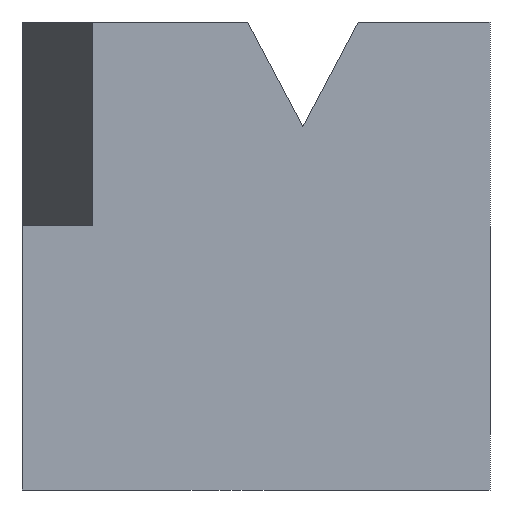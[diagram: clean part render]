
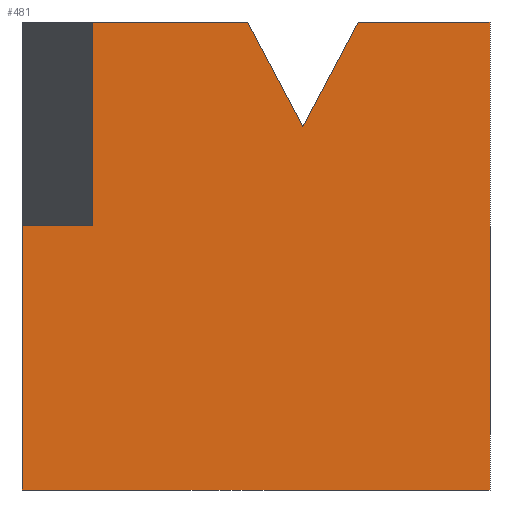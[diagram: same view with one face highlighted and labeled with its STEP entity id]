
A CAD part, front view. The second image highlights one B-rep face of the part: STEP entity #481.
In plain terms, the highlighted planar face has unit normal (0, -1, 0).
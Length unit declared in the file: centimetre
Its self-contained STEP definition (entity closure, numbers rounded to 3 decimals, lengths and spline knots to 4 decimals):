
#7 = CARTESIAN_POINT ( 'NONE',  ( 1000., 0., 0. ) ) ;
#8 = ORIENTED_EDGE ( 'NONE', *, *, #80, .T. ) ;
#23 = VERTEX_POINT ( 'NONE', #35 ) ;
#29 = EDGE_CURVE ( 'NONE', #275, #600, #256, .T. ) ;
#35 = CARTESIAN_POINT ( 'NONE',  ( 150.275, 0., 1000. ) ) ;
#49 = CARTESIAN_POINT ( 'NONE',  ( 600.2374, 0., 775.8648 ) ) ;
#54 = DIRECTION ( 'NONE',  ( 0., 0., -1. ) ) ;
#65 = PLANE ( 'NONE',  #152 ) ;
#77 = VERTEX_POINT ( 'NONE', #632 ) ;
#80 = EDGE_CURVE ( 'NONE', #77, #337, #582, .T. ) ;
#84 = DIRECTION ( 'NONE',  ( 1., 0., 0. ) ) ;
#90 = EDGE_CURVE ( 'NONE', #600, #162, #472, .T. ) ;
#100 = ORIENTED_EDGE ( 'NONE', *, *, #566, .F. ) ;
#101 = DIRECTION ( 'NONE',  ( 1., 0., 0. ) ) ;
#105 = DIRECTION ( 'NONE',  ( 1., 0., 0. ) ) ;
#114 = CARTESIAN_POINT ( 'NONE',  ( 0., 0., 1000. ) ) ;
#115 = VERTEX_POINT ( 'NONE', #220 ) ;
#120 = ORIENTED_EDGE ( 'NONE', *, *, #29, .F. ) ;
#134 = VERTEX_POINT ( 'NONE', #7 ) ;
#141 = DIRECTION ( 'NONE',  ( 0., 1., 0. ) ) ;
#152 = AXIS2_PLACEMENT_3D ( 'NONE', #293, #141, #253 ) ;
#156 = LINE ( 'NONE', #257, #549 ) ;
#162 = VERTEX_POINT ( 'NONE', #541 ) ;
#163 = DIRECTION ( 'NONE',  ( 0., 0., -1. ) ) ;
#167 = CARTESIAN_POINT ( 'NONE',  ( 600.2374, 0., 775.8648 ) ) ;
#174 = LINE ( 'NONE', #375, #218 ) ;
#186 = VECTOR ( 'NONE', #84, 100. ) ;
#198 = CARTESIAN_POINT ( 'NONE',  ( 482.2982, 0., 1000. ) ) ;
#215 = ORIENTED_EDGE ( 'NONE', *, *, #367, .F. ) ;
#218 = VECTOR ( 'NONE', #276, 100. ) ;
#220 = CARTESIAN_POINT ( 'NONE',  ( 150.275, 0., 564.4162 ) ) ;
#227 = VECTOR ( 'NONE', #163, 100. ) ;
#229 = EDGE_CURVE ( 'NONE', #115, #23, #604, .T. ) ;
#241 = CARTESIAN_POINT ( 'NONE',  ( 1000., 0., 1000. ) ) ;
#253 = DIRECTION ( 'NONE',  ( 0., 0., 1. ) ) ;
#256 = LINE ( 'NONE', #198, #665 ) ;
#257 = CARTESIAN_POINT ( 'NONE',  ( 150.275, 0., 564.4162 ) ) ;
#275 = VERTEX_POINT ( 'NONE', #615 ) ;
#276 = DIRECTION ( 'NONE',  ( 1., 0., 0. ) ) ;
#290 = CARTESIAN_POINT ( 'NONE',  ( 0., 0., 1000. ) ) ;
#293 = CARTESIAN_POINT ( 'NONE',  ( 0., 0., 1000. ) ) ;
#296 = LINE ( 'NONE', #290, #186 ) ;
#303 = CARTESIAN_POINT ( 'NONE',  ( 1000., 0., 1000. ) ) ;
#311 = LINE ( 'NONE', #303, #227 ) ;
#314 = DIRECTION ( 'NONE',  ( 0.466, 0., 0.885 ) ) ;
#323 = DIRECTION ( 'NONE',  ( 0., 0., 1. ) ) ;
#337 = VERTEX_POINT ( 'NONE', #510 ) ;
#364 = VECTOR ( 'NONE', #323, 100. ) ;
#367 = EDGE_CURVE ( 'NONE', #162, #534, #296, .T. ) ;
#374 = CARTESIAN_POINT ( 'NONE',  ( 150.275, 0., 564.4162 ) ) ;
#375 = CARTESIAN_POINT ( 'NONE',  ( 0., 0., 0. ) ) ;
#388 = EDGE_CURVE ( 'NONE', #77, #115, #156, .T. ) ;
#397 = DIRECTION ( 'NONE',  ( 0.466, 0., -0.885 ) ) ;
#431 = EDGE_LOOP ( 'NONE', ( #215, #452, #120, #563, #560, #587, #8, #557, #100 ) ) ;
#438 = EDGE_CURVE ( 'NONE', #337, #134, #174, .T. ) ;
#452 = ORIENTED_EDGE ( 'NONE', *, *, #90, .F. ) ;
#472 = LINE ( 'NONE', #167, #588 ) ;
#481 = ADVANCED_FACE ( 'NONE', ( #539 ), #65, .F. ) ;
#510 = CARTESIAN_POINT ( 'NONE',  ( 0., 0., 0. ) ) ;
#534 = VERTEX_POINT ( 'NONE', #241 ) ;
#539 = FACE_OUTER_BOUND ( 'NONE', #431, .T. ) ;
#541 = CARTESIAN_POINT ( 'NONE',  ( 718.1767, 0., 1000. ) ) ;
#547 = VECTOR ( 'NONE', #54, 100. ) ;
#549 = VECTOR ( 'NONE', #101, 100. ) ;
#557 = ORIENTED_EDGE ( 'NONE', *, *, #438, .T. ) ;
#560 = ORIENTED_EDGE ( 'NONE', *, *, #229, .F. ) ;
#563 = ORIENTED_EDGE ( 'NONE', *, *, #577, .F. ) ;
#566 = EDGE_CURVE ( 'NONE', #534, #134, #311, .T. ) ;
#572 = CARTESIAN_POINT ( 'NONE',  ( 0., 0., 1000. ) ) ;
#577 = EDGE_CURVE ( 'NONE', #23, #275, #583, .T. ) ;
#582 = LINE ( 'NONE', #114, #547 ) ;
#583 = LINE ( 'NONE', #572, #599 ) ;
#587 = ORIENTED_EDGE ( 'NONE', *, *, #388, .F. ) ;
#588 = VECTOR ( 'NONE', #314, 100. ) ;
#599 = VECTOR ( 'NONE', #105, 100. ) ;
#600 = VERTEX_POINT ( 'NONE', #49 ) ;
#604 = LINE ( 'NONE', #374, #364 ) ;
#615 = CARTESIAN_POINT ( 'NONE',  ( 482.2982, 0., 1000. ) ) ;
#632 = CARTESIAN_POINT ( 'NONE',  ( 0., 0., 564.4162 ) ) ;
#665 = VECTOR ( 'NONE', #397, 100. ) ;
